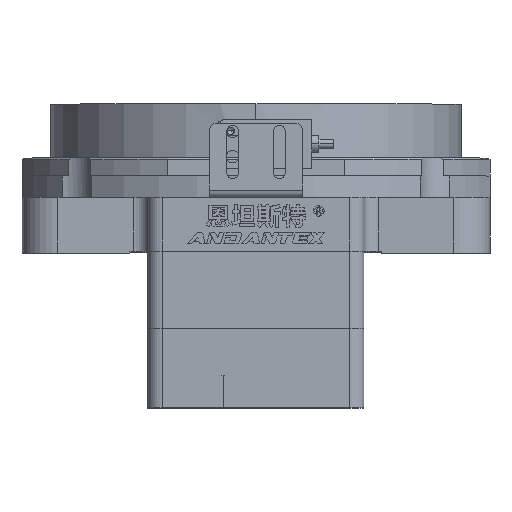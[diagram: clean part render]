
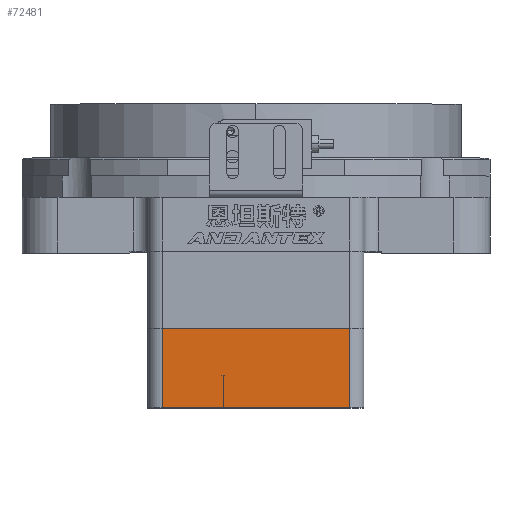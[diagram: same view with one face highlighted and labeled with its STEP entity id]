
A CAD part, top view. The second image highlights one B-rep face of the part: STEP entity #72481.
In plain terms, the highlighted planar face has unit normal (0, 0, 1).
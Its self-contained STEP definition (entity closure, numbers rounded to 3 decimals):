
#68409 = PLANE('',#68410);
#68410 = AXIS2_PLACEMENT_3D('',#68411,#68412,#68413);
#68411 = CARTESIAN_POINT('',(-37.252,-22.109,
    248.8));
#68412 = DIRECTION('',(0.,-1.,0.));
#68413 = DIRECTION('',(0.,-0.,-1.));
#68676 = PLANE('',#68677);
#68677 = AXIS2_PLACEMENT_3D('',#68678,#68679,#68680);
#68678 = CARTESIAN_POINT('',(-11.252,-44.109,
    233.));
#68679 = DIRECTION('',(0.,-1.,0.));
#68680 = DIRECTION('',(0.,-0.,-1.));
#72082 = VERTEX_POINT('',#72083);
#72083 = CARTESIAN_POINT('',(-63.252,-22.109,
    237.));
#72098 = CYLINDRICAL_SURFACE('',#72099,4.);
#72099 = AXIS2_PLACEMENT_3D('',#72100,#72101,#72102);
#72100 = CARTESIAN_POINT('',(-63.252,-44.109,
    233.));
#72101 = DIRECTION('',(0.,1.,0.));
#72102 = DIRECTION('',(0.,-0.,1.));
#72110 = EDGE_CURVE('',#72111,#72082,#72113,.T.);
#72111 = VERTEX_POINT('',#72112);
#72112 = CARTESIAN_POINT('',(-11.252,-22.109,
    237.));
#72113 = SURFACE_CURVE('',#72114,(#72118,#72125),.PCURVE_S1.);
#72114 = LINE('',#72115,#72116);
#72115 = CARTESIAN_POINT('',(-37.252,-22.109,
    237.));
#72116 = VECTOR('',#72117,1.);
#72117 = DIRECTION('',(-1.,-0.,-0.));
#72118 = PCURVE('',#68409,#72119);
#72119 = DEFINITIONAL_REPRESENTATION('',(#72120),#72124);
#72120 = LINE('',#72121,#72122);
#72121 = CARTESIAN_POINT('',(11.8,0.));
#72122 = VECTOR('',#72123,1.);
#72123 = DIRECTION('',(0.,-1.));
#72124 = ( GEOMETRIC_REPRESENTATION_CONTEXT(2) 
PARAMETRIC_REPRESENTATION_CONTEXT() REPRESENTATION_CONTEXT('2D SPACE',''
  ) );
#72125 = PCURVE('',#72126,#72131);
#72126 = PLANE('',#72127);
#72127 = AXIS2_PLACEMENT_3D('',#72128,#72129,#72130);
#72128 = CARTESIAN_POINT('',(-11.252,-44.109,
    237.));
#72129 = DIRECTION('',(0.,0.,-1.));
#72130 = DIRECTION('',(-1.,0.,0.));
#72131 = DEFINITIONAL_REPRESENTATION('',(#72132),#72136);
#72132 = LINE('',#72133,#72134);
#72133 = CARTESIAN_POINT('',(26.,22.));
#72134 = VECTOR('',#72135,1.);
#72135 = DIRECTION('',(1.,0.));
#72136 = ( GEOMETRIC_REPRESENTATION_CONTEXT(2) 
PARAMETRIC_REPRESENTATION_CONTEXT() REPRESENTATION_CONTEXT('2D SPACE',''
  ) );
#72155 = CYLINDRICAL_SURFACE('',#72156,4.);
#72156 = AXIS2_PLACEMENT_3D('',#72157,#72158,#72159);
#72157 = CARTESIAN_POINT('',(-11.252,-44.109,
    233.));
#72158 = DIRECTION('',(0.,1.,0.));
#72159 = DIRECTION('',(0.,-0.,1.));
#72433 = VERTEX_POINT('',#72434);
#72434 = CARTESIAN_POINT('',(-63.252,-44.109,
    237.));
#72460 = EDGE_CURVE('',#72433,#72082,#72461,.T.);
#72461 = SURFACE_CURVE('',#72462,(#72466,#72473),.PCURVE_S1.);
#72462 = LINE('',#72463,#72464);
#72463 = CARTESIAN_POINT('',(-63.252,-44.109,
    237.));
#72464 = VECTOR('',#72465,1.);
#72465 = DIRECTION('',(0.,1.,0.));
#72466 = PCURVE('',#72098,#72467);
#72467 = DEFINITIONAL_REPRESENTATION('',(#72468),#72472);
#72468 = LINE('',#72469,#72470);
#72469 = CARTESIAN_POINT('',(6.283,0.));
#72470 = VECTOR('',#72471,1.);
#72471 = DIRECTION('',(0.,1.));
#72472 = ( GEOMETRIC_REPRESENTATION_CONTEXT(2) 
PARAMETRIC_REPRESENTATION_CONTEXT() REPRESENTATION_CONTEXT('2D SPACE',''
  ) );
#72473 = PCURVE('',#72126,#72474);
#72474 = DEFINITIONAL_REPRESENTATION('',(#72475),#72479);
#72475 = LINE('',#72476,#72477);
#72476 = CARTESIAN_POINT('',(52.,0.));
#72477 = VECTOR('',#72478,1.);
#72478 = DIRECTION('',(0.,1.));
#72479 = ( GEOMETRIC_REPRESENTATION_CONTEXT(2) 
PARAMETRIC_REPRESENTATION_CONTEXT() REPRESENTATION_CONTEXT('2D SPACE',''
  ) );
#72481 = ADVANCED_FACE('',(#72482),#72126,.F.);
#72482 = FACE_BOUND('',#72483,.T.);
#72483 = EDGE_LOOP('',(#72484,#72507,#72528,#72529));
#72484 = ORIENTED_EDGE('',*,*,#72485,.F.);
#72485 = EDGE_CURVE('',#72486,#72433,#72488,.T.);
#72486 = VERTEX_POINT('',#72487);
#72487 = CARTESIAN_POINT('',(-11.252,-44.109,
    237.));
#72488 = SURFACE_CURVE('',#72489,(#72493,#72500),.PCURVE_S1.);
#72489 = LINE('',#72490,#72491);
#72490 = CARTESIAN_POINT('',(-11.252,-44.109,
    237.));
#72491 = VECTOR('',#72492,1.);
#72492 = DIRECTION('',(-1.,0.,0.));
#72493 = PCURVE('',#72126,#72494);
#72494 = DEFINITIONAL_REPRESENTATION('',(#72495),#72499);
#72495 = LINE('',#72496,#72497);
#72496 = CARTESIAN_POINT('',(0.,0.));
#72497 = VECTOR('',#72498,1.);
#72498 = DIRECTION('',(1.,0.));
#72499 = ( GEOMETRIC_REPRESENTATION_CONTEXT(2) 
PARAMETRIC_REPRESENTATION_CONTEXT() REPRESENTATION_CONTEXT('2D SPACE',''
  ) );
#72500 = PCURVE('',#68676,#72501);
#72501 = DEFINITIONAL_REPRESENTATION('',(#72502),#72506);
#72502 = LINE('',#72503,#72504);
#72503 = CARTESIAN_POINT('',(-4.,0.));
#72504 = VECTOR('',#72505,1.);
#72505 = DIRECTION('',(0.,-1.));
#72506 = ( GEOMETRIC_REPRESENTATION_CONTEXT(2) 
PARAMETRIC_REPRESENTATION_CONTEXT() REPRESENTATION_CONTEXT('2D SPACE',''
  ) );
#72507 = ORIENTED_EDGE('',*,*,#72508,.F.);
#72508 = EDGE_CURVE('',#72111,#72486,#72509,.T.);
#72509 = SURFACE_CURVE('',#72510,(#72514,#72521),.PCURVE_S1.);
#72510 = LINE('',#72511,#72512);
#72511 = CARTESIAN_POINT('',(-11.252,-44.109,
    237.));
#72512 = VECTOR('',#72513,1.);
#72513 = DIRECTION('',(-0.,-1.,-0.));
#72514 = PCURVE('',#72126,#72515);
#72515 = DEFINITIONAL_REPRESENTATION('',(#72516),#72520);
#72516 = LINE('',#72517,#72518);
#72517 = CARTESIAN_POINT('',(0.,0.));
#72518 = VECTOR('',#72519,1.);
#72519 = DIRECTION('',(0.,-1.));
#72520 = ( GEOMETRIC_REPRESENTATION_CONTEXT(2) 
PARAMETRIC_REPRESENTATION_CONTEXT() REPRESENTATION_CONTEXT('2D SPACE',''
  ) );
#72521 = PCURVE('',#72155,#72522);
#72522 = DEFINITIONAL_REPRESENTATION('',(#72523),#72527);
#72523 = LINE('',#72524,#72525);
#72524 = CARTESIAN_POINT('',(0.,0.));
#72525 = VECTOR('',#72526,1.);
#72526 = DIRECTION('',(0.,-1.));
#72527 = ( GEOMETRIC_REPRESENTATION_CONTEXT(2) 
PARAMETRIC_REPRESENTATION_CONTEXT() REPRESENTATION_CONTEXT('2D SPACE',''
  ) );
#72528 = ORIENTED_EDGE('',*,*,#72110,.T.);
#72529 = ORIENTED_EDGE('',*,*,#72460,.F.);
